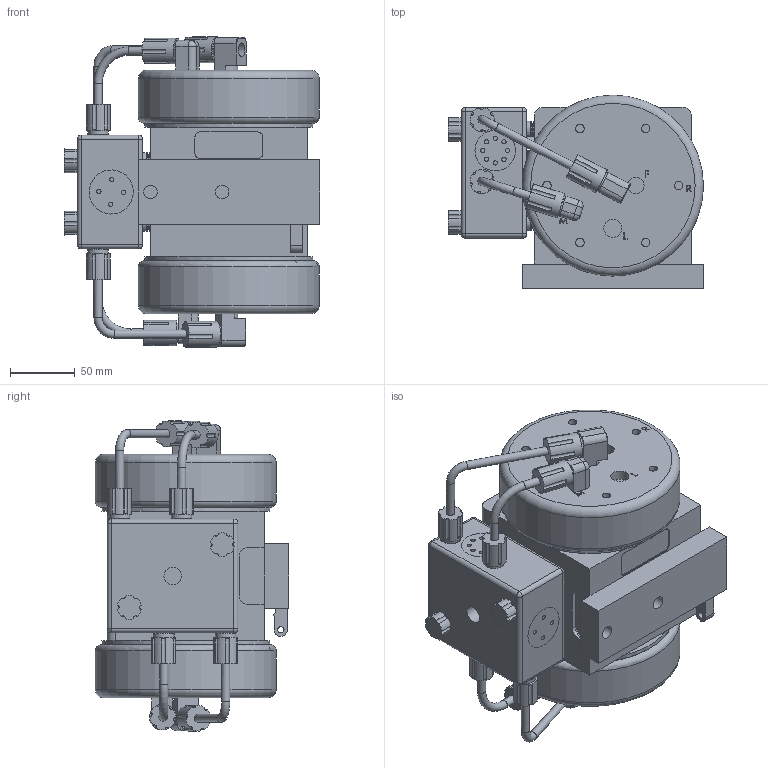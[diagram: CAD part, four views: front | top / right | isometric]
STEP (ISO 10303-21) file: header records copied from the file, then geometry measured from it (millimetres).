
FILE_DESCRIPTION (( 'STEP AP214' ), '1' );
FILE_NAME ('PSU030_with shuttle.STEP', '2013-07-25T17:07:14', ( '' ), ( '' ), 'SwSTEP 2.0', 'SolidWorks 2012', '' );
FILE_SCHEMA (( 'AUTOMOTIVE_DESIGN' ));
Length unit declared in the file: inch
Products named in the file (1): PSU030_with shuttle
Bounding box: 196.93 x 149.4 x 239.32 mm (x, y, z)
Volume: 3410732.2 mm3; surface area: 214135.2 mm2
Topology: 1 solids, 5 shells, 1261 faces, 3241 edges, 2134 vertices
Faces by surface type: plane 828, cylinder 217, bspline 170, cone 26, sphere 12, torus 8
Full cylindrical faces by diameter (mm): 3.251 x16, 3.302 x12, 4.445 x1, 4.902 x1, 6.35 x8, 6.477 x12, 9.144 x2, 10.312 x2, 10.541 x2, 12.7 x2, 12.725 x2, 13.557 x1, 13.934 x2, 15.875 x8, 15.938 x1, 16.701 x1, 18.542 x4, 19.812 x4, 22.225 x2, 38.1 x1, 129.819 x2, 139.7 x2
Entity records: 46123 total; most frequent: CARTESIAN_POINT 16055, ORIENTED_EDGE 6126, DIRECTION 5479, EDGE_CURVE 3063, LINE 2139, VECTOR 2139, VERTEX_POINT 2086, AXIS2_PLACEMENT_3D 1670
